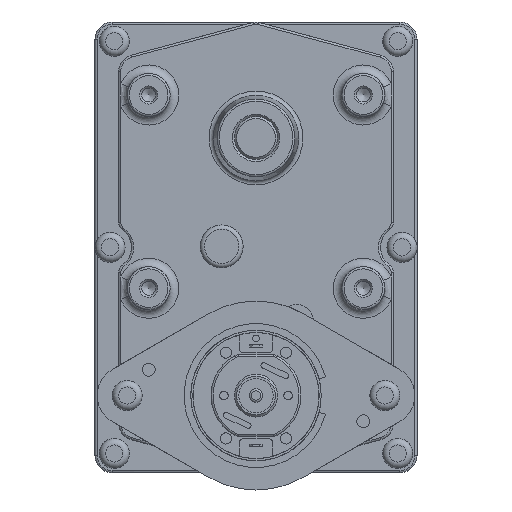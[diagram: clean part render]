
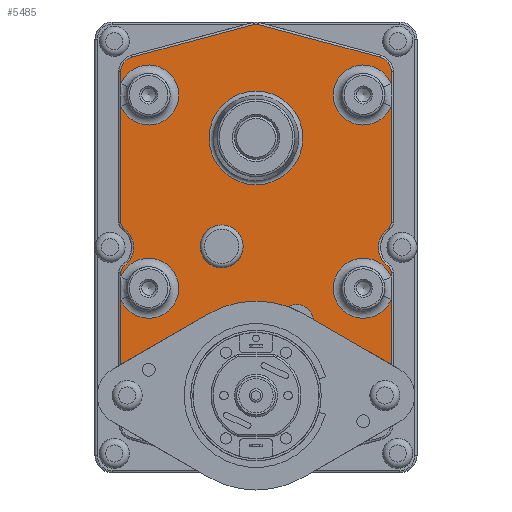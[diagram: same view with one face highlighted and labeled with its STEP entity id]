
A CAD part, front view. The second image highlights one B-rep face of the part: STEP entity #5485.
In plain terms, the highlighted planar face has unit normal (0, -1, 0).
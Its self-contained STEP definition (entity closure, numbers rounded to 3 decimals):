
#101=FACE_BOUND('',#688,.T.);
#102=FACE_BOUND('',#689,.T.);
#191=PLANE('',#5946);
#333=FACE_OUTER_BOUND('',#687,.T.);
#687=EDGE_LOOP('',(#3697,#3698,#3699,#3700,#3701,#3702,#3703,#3704,#3705,
#3706,#3707,#3708,#3709,#3710,#3711,#3712,#3713,#3714,#3715,#3716,#3717,
#3718,#3719,#3720,#3721,#3722,#3723));
#688=EDGE_LOOP('',(#3724));
#689=EDGE_LOOP('',(#3725));
#1098=CIRCLE('',#5942,10.909);
#1101=CIRCLE('',#5947,7.);
#1102=CIRCLE('',#5948,1.5);
#1103=CIRCLE('',#5949,5.5);
#1104=CIRCLE('',#5950,1.5);
#1105=CIRCLE('',#5951,7.);
#1106=CIRCLE('',#5952,3.5);
#1107=CIRCLE('',#5953,1.5);
#1108=CIRCLE('',#5954,3.5);
#1109=CIRCLE('',#5955,7.);
#1110=CIRCLE('',#5956,1.5);
#1111=CIRCLE('',#5957,5.5);
#1112=CIRCLE('',#5958,1.5);
#1113=CIRCLE('',#5959,7.);
#1114=CIRCLE('',#5960,22.);
#1115=CIRCLE('',#5961,4.);
#1116=CIRCLE('',#5962,5.);
#1524=LINE('',#8749,#1900);
#1525=LINE('',#8757,#1901);
#1526=LINE('',#8761,#1902);
#1527=LINE('',#8765,#1903);
#1528=LINE('',#8769,#1904);
#1529=LINE('',#8773,#1905);
#1530=LINE('',#8777,#1906);
#1531=LINE('',#8785,#1907);
#1532=LINE('',#8789,#1908);
#1533=LINE('',#8791,#1909);
#1534=LINE('',#8797,#1910);
#1535=LINE('',#8798,#1911);
#1900=VECTOR('',#6779,10.);
#1901=VECTOR('',#6786,10.);
#1902=VECTOR('',#6789,10.);
#1903=VECTOR('',#6792,10.);
#1904=VECTOR('',#6795,10.);
#1905=VECTOR('',#6798,10.);
#1906=VECTOR('',#6801,10.);
#1907=VECTOR('',#6808,10.);
#1908=VECTOR('',#6811,10.);
#1909=VECTOR('',#6812,10.);
#1910=VECTOR('',#6817,10.);
#1911=VECTOR('',#6818,10.);
#2298=VERTEX_POINT('',#8735);
#2301=VERTEX_POINT('',#8745);
#2302=VERTEX_POINT('',#8746);
#2303=VERTEX_POINT('',#8748);
#2304=VERTEX_POINT('',#8750);
#2305=VERTEX_POINT('',#8752);
#2306=VERTEX_POINT('',#8754);
#2307=VERTEX_POINT('',#8756);
#2308=VERTEX_POINT('',#8758);
#2309=VERTEX_POINT('',#8760);
#2310=VERTEX_POINT('',#8762);
#2311=VERTEX_POINT('',#8764);
#2312=VERTEX_POINT('',#8766);
#2313=VERTEX_POINT('',#8768);
#2314=VERTEX_POINT('',#8770);
#2315=VERTEX_POINT('',#8772);
#2316=VERTEX_POINT('',#8774);
#2317=VERTEX_POINT('',#8776);
#2318=VERTEX_POINT('',#8778);
#2319=VERTEX_POINT('',#8780);
#2320=VERTEX_POINT('',#8782);
#2321=VERTEX_POINT('',#8784);
#2322=VERTEX_POINT('',#8786);
#2323=VERTEX_POINT('',#8788);
#2324=VERTEX_POINT('',#8790);
#2325=VERTEX_POINT('',#8792);
#2326=VERTEX_POINT('',#8794);
#2327=VERTEX_POINT('',#8796);
#2328=VERTEX_POINT('',#8799);
#2840=EDGE_CURVE('',#2298,#2298,#1098,.T.);
#2844=EDGE_CURVE('',#2301,#2302,#1101,.T.);
#2845=EDGE_CURVE('',#2303,#2301,#1524,.T.);
#2846=EDGE_CURVE('',#2304,#2303,#1102,.T.);
#2847=EDGE_CURVE('',#2305,#2304,#1103,.T.);
#2848=EDGE_CURVE('',#2306,#2305,#1104,.T.);
#2849=EDGE_CURVE('',#2307,#2306,#1525,.T.);
#2850=EDGE_CURVE('',#2308,#2307,#1105,.T.);
#2851=EDGE_CURVE('',#2309,#2308,#1526,.T.);
#2852=EDGE_CURVE('',#2310,#2309,#1106,.T.);
#2853=EDGE_CURVE('',#2311,#2310,#1527,.T.);
#2854=EDGE_CURVE('',#2312,#2311,#1107,.T.);
#2855=EDGE_CURVE('',#2313,#2312,#1528,.T.);
#2856=EDGE_CURVE('',#2314,#2313,#1108,.T.);
#2857=EDGE_CURVE('',#2315,#2314,#1529,.T.);
#2858=EDGE_CURVE('',#2316,#2315,#1109,.T.);
#2859=EDGE_CURVE('',#2317,#2316,#1530,.T.);
#2860=EDGE_CURVE('',#2318,#2317,#1110,.T.);
#2861=EDGE_CURVE('',#2319,#2318,#1111,.T.);
#2862=EDGE_CURVE('',#2320,#2319,#1112,.T.);
#2863=EDGE_CURVE('',#2321,#2320,#1531,.T.);
#2864=EDGE_CURVE('',#2322,#2321,#1113,.T.);
#2865=EDGE_CURVE('',#2323,#2322,#1532,.T.);
#2866=EDGE_CURVE('',#2323,#2324,#1533,.T.);
#2867=EDGE_CURVE('',#2324,#2325,#1114,.T.);
#2868=EDGE_CURVE('',#2325,#2326,#1115,.T.);
#2869=EDGE_CURVE('',#2326,#2327,#1534,.T.);
#2870=EDGE_CURVE('',#2302,#2327,#1535,.T.);
#2871=EDGE_CURVE('',#2328,#2328,#1116,.T.);
#3697=ORIENTED_EDGE('',*,*,#2844,.F.);
#3698=ORIENTED_EDGE('',*,*,#2845,.F.);
#3699=ORIENTED_EDGE('',*,*,#2846,.F.);
#3700=ORIENTED_EDGE('',*,*,#2847,.F.);
#3701=ORIENTED_EDGE('',*,*,#2848,.F.);
#3702=ORIENTED_EDGE('',*,*,#2849,.F.);
#3703=ORIENTED_EDGE('',*,*,#2850,.F.);
#3704=ORIENTED_EDGE('',*,*,#2851,.F.);
#3705=ORIENTED_EDGE('',*,*,#2852,.F.);
#3706=ORIENTED_EDGE('',*,*,#2853,.F.);
#3707=ORIENTED_EDGE('',*,*,#2854,.F.);
#3708=ORIENTED_EDGE('',*,*,#2855,.F.);
#3709=ORIENTED_EDGE('',*,*,#2856,.F.);
#3710=ORIENTED_EDGE('',*,*,#2857,.F.);
#3711=ORIENTED_EDGE('',*,*,#2858,.F.);
#3712=ORIENTED_EDGE('',*,*,#2859,.F.);
#3713=ORIENTED_EDGE('',*,*,#2860,.F.);
#3714=ORIENTED_EDGE('',*,*,#2861,.F.);
#3715=ORIENTED_EDGE('',*,*,#2862,.F.);
#3716=ORIENTED_EDGE('',*,*,#2863,.F.);
#3717=ORIENTED_EDGE('',*,*,#2864,.F.);
#3718=ORIENTED_EDGE('',*,*,#2865,.F.);
#3719=ORIENTED_EDGE('',*,*,#2866,.T.);
#3720=ORIENTED_EDGE('',*,*,#2867,.T.);
#3721=ORIENTED_EDGE('',*,*,#2868,.T.);
#3722=ORIENTED_EDGE('',*,*,#2869,.T.);
#3723=ORIENTED_EDGE('',*,*,#2870,.F.);
#3724=ORIENTED_EDGE('',*,*,#2871,.T.);
#3725=ORIENTED_EDGE('',*,*,#2840,.F.);
#5485=ADVANCED_FACE('',(#333,#101,#102),#191,.F.);
#5942=AXIS2_PLACEMENT_3D('',#8737,#6766,#6767);
#5946=AXIS2_PLACEMENT_3D('',#8744,#6775,#6776);
#5947=AXIS2_PLACEMENT_3D('',#8747,#6777,#6778);
#5948=AXIS2_PLACEMENT_3D('',#8751,#6780,#6781);
#5949=AXIS2_PLACEMENT_3D('',#8753,#6782,#6783);
#5950=AXIS2_PLACEMENT_3D('',#8755,#6784,#6785);
#5951=AXIS2_PLACEMENT_3D('',#8759,#6787,#6788);
#5952=AXIS2_PLACEMENT_3D('',#8763,#6790,#6791);
#5953=AXIS2_PLACEMENT_3D('',#8767,#6793,#6794);
#5954=AXIS2_PLACEMENT_3D('',#8771,#6796,#6797);
#5955=AXIS2_PLACEMENT_3D('',#8775,#6799,#6800);
#5956=AXIS2_PLACEMENT_3D('',#8779,#6802,#6803);
#5957=AXIS2_PLACEMENT_3D('',#8781,#6804,#6805);
#5958=AXIS2_PLACEMENT_3D('',#8783,#6806,#6807);
#5959=AXIS2_PLACEMENT_3D('',#8787,#6809,#6810);
#5960=AXIS2_PLACEMENT_3D('',#8793,#6813,#6814);
#5961=AXIS2_PLACEMENT_3D('',#8795,#6815,#6816);
#5962=AXIS2_PLACEMENT_3D('',#8800,#6819,#6820);
#6766=DIRECTION('center_axis',(0.,-1.,0.));
#6767=DIRECTION('ref_axis',(1.,0.,0.));
#6775=DIRECTION('center_axis',(0.,1.,0.));
#6776=DIRECTION('ref_axis',(0.,0.,1.));
#6777=DIRECTION('center_axis',(0.,-1.,0.));
#6778=DIRECTION('ref_axis',(-1.,0.,0.));
#6779=DIRECTION('',(0.,0.,-1.));
#6780=DIRECTION('center_axis',(0.,1.,0.));
#6781=DIRECTION('ref_axis',(0.886,0.,0.463));
#6782=DIRECTION('center_axis',(0.,-1.,0.));
#6783=DIRECTION('ref_axis',(-1.,0.,0.));
#6784=DIRECTION('center_axis',(0.,1.,0.));
#6785=DIRECTION('ref_axis',(0.886,0.,-0.463));
#6786=DIRECTION('',(0.,0.,-1.));
#6787=DIRECTION('center_axis',(0.,-1.,0.));
#6788=DIRECTION('ref_axis',(-1.,0.,0.));
#6789=DIRECTION('',(0.,0.,-1.));
#6790=DIRECTION('center_axis',(0.,1.,0.));
#6791=DIRECTION('ref_axis',(0.793,0.,0.609));
#6792=DIRECTION('',(0.966,0.,-0.259));
#6793=DIRECTION('center_axis',(0.,1.,0.));
#6794=DIRECTION('ref_axis',(0.,0.,1.));
#6795=DIRECTION('',(0.966,0.,0.259));
#6796=DIRECTION('center_axis',(0.,1.,0.));
#6797=DIRECTION('ref_axis',(-0.793,0.,0.609));
#6798=DIRECTION('',(0.,0.,1.));
#6799=DIRECTION('center_axis',(0.,-1.,0.));
#6800=DIRECTION('ref_axis',(-1.,0.,0.));
#6801=DIRECTION('',(0.,0.,1.));
#6802=DIRECTION('center_axis',(0.,1.,0.));
#6803=DIRECTION('ref_axis',(-0.886,0.,-0.463));
#6804=DIRECTION('center_axis',(0.,-1.,0.));
#6805=DIRECTION('ref_axis',(1.,0.,0.));
#6806=DIRECTION('center_axis',(0.,1.,0.));
#6807=DIRECTION('ref_axis',(-0.886,0.,0.463));
#6808=DIRECTION('',(0.,0.,1.));
#6809=DIRECTION('center_axis',(0.,-1.,0.));
#6810=DIRECTION('ref_axis',(-1.,0.,0.));
#6811=DIRECTION('',(0.,0.,1.));
#6812=DIRECTION('',(0.866,0.,0.5));
#6813=DIRECTION('center_axis',(0.,1.,0.));
#6814=DIRECTION('ref_axis',(1.,0.,0.));
#6815=DIRECTION('center_axis',(0.,1.,0.));
#6816=DIRECTION('ref_axis',(-1.,0.,0.));
#6817=DIRECTION('',(0.866,0.,-0.5));
#6818=DIRECTION('',(0.,0.,-1.));
#6819=DIRECTION('center_axis',(0.,1.,0.));
#6820=DIRECTION('ref_axis',(-1.,0.,0.));
#8735=CARTESIAN_POINT('',(0.,-35.,-10.909));
#8737=CARTESIAN_POINT('Origin',(0.,-35.,0.));
#8744=CARTESIAN_POINT('Origin',(0.,-35.,-25.5));
#8745=CARTESIAN_POINT('',(31.5,-35.,-32.402));
#8746=CARTESIAN_POINT('',(31.5,-35.,-37.598));
#8747=CARTESIAN_POINT('Origin',(25.,-35.,-35.));
#8748=CARTESIAN_POINT('',(31.5,-35.,-31.245));
#8749=CARTESIAN_POINT('',(31.5,-35.,-45.963));
#8750=CARTESIAN_POINT('',(30.857,-35.,-30.014));
#8751=CARTESIAN_POINT('Origin',(30.,-35.,-31.245));
#8752=CARTESIAN_POINT('',(30.857,-35.,-20.986));
#8753=CARTESIAN_POINT('Origin',(34.,-35.,-25.5));
#8754=CARTESIAN_POINT('',(31.5,-35.,-19.755));
#8755=CARTESIAN_POINT('Origin',(30.,-35.,-19.755));
#8756=CARTESIAN_POINT('',(31.5,-35.,7.402));
#8757=CARTESIAN_POINT('',(31.5,-35.,-45.963));
#8758=CARTESIAN_POINT('',(31.5,-35.,12.598));
#8759=CARTESIAN_POINT('Origin',(25.,-35.,10.));
#8760=CARTESIAN_POINT('',(31.5,-35.,15.427));
#8761=CARTESIAN_POINT('',(31.5,-35.,-45.963));
#8762=CARTESIAN_POINT('',(28.906,-35.,18.808));
#8763=CARTESIAN_POINT('Origin',(28.,-35.,15.427));
#8764=CARTESIAN_POINT('',(0.388,-35.,26.449));
#8765=CARTESIAN_POINT('',(20.96,-35.,20.937));
#8766=CARTESIAN_POINT('',(-0.388,-35.,26.449));
#8767=CARTESIAN_POINT('Origin',(0.,-35.,25.));
#8768=CARTESIAN_POINT('',(-28.906,-35.,18.808));
#8769=CARTESIAN_POINT('',(-6.701,-35.,24.757));
#8770=CARTESIAN_POINT('',(-31.5,-35.,15.427));
#8771=CARTESIAN_POINT('Origin',(-28.,-35.,15.427));
#8772=CARTESIAN_POINT('',(-31.5,-35.,12.598));
#8773=CARTESIAN_POINT('',(-31.5,-35.,-5.037));
#8774=CARTESIAN_POINT('',(-31.5,-35.,7.402));
#8775=CARTESIAN_POINT('Origin',(-25.,-35.,10.));
#8776=CARTESIAN_POINT('',(-31.5,-35.,-19.755));
#8777=CARTESIAN_POINT('',(-31.5,-35.,-5.037));
#8778=CARTESIAN_POINT('',(-30.857,-35.,-20.986));
#8779=CARTESIAN_POINT('Origin',(-30.,-35.,-19.755));
#8780=CARTESIAN_POINT('',(-30.857,-35.,-30.014));
#8781=CARTESIAN_POINT('Origin',(-34.,-35.,-25.5));
#8782=CARTESIAN_POINT('',(-31.5,-35.,-31.245));
#8783=CARTESIAN_POINT('Origin',(-30.,-35.,-31.245));
#8784=CARTESIAN_POINT('',(-31.5,-35.,-32.402));
#8785=CARTESIAN_POINT('',(-31.5,-35.,-5.037));
#8786=CARTESIAN_POINT('',(-31.5,-35.,-37.598));
#8787=CARTESIAN_POINT('Origin',(-25.,-35.,-35.));
#8788=CARTESIAN_POINT('',(-31.5,-35.,-52.783));
#8789=CARTESIAN_POINT('',(-31.5,-35.,-5.037));
#8790=CARTESIAN_POINT('',(-11.,-35.,-40.947));
#8791=CARTESIAN_POINT('',(-3.531,-35.,-36.635));
#8792=CARTESIAN_POINT('',(7.452,-35.,-39.301));
#8793=CARTESIAN_POINT('Origin',(0.,-35.,-60.));
#8794=CARTESIAN_POINT('',(13.372,-35.,-42.317));
#8795=CARTESIAN_POINT('Origin',(9.401,-35.,-42.794));
#8796=CARTESIAN_POINT('',(31.5,-35.,-52.783));
#8797=CARTESIAN_POINT('',(14.781,-35.,-43.13));
#8798=CARTESIAN_POINT('',(31.5,-35.,-45.963));
#8799=CARTESIAN_POINT('',(-3.,-35.,-25.264));
#8800=CARTESIAN_POINT('Origin',(-8.,-35.,-25.264));
